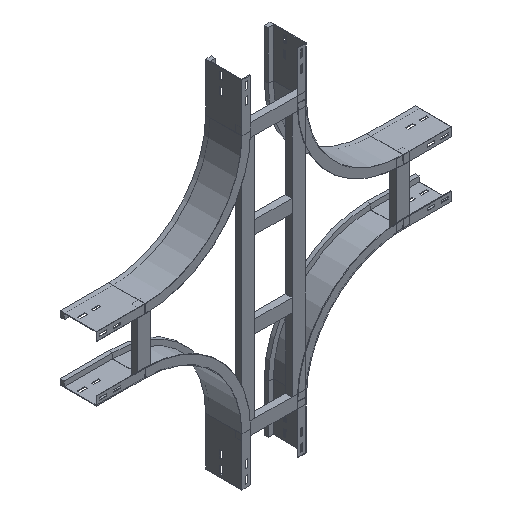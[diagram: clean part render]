
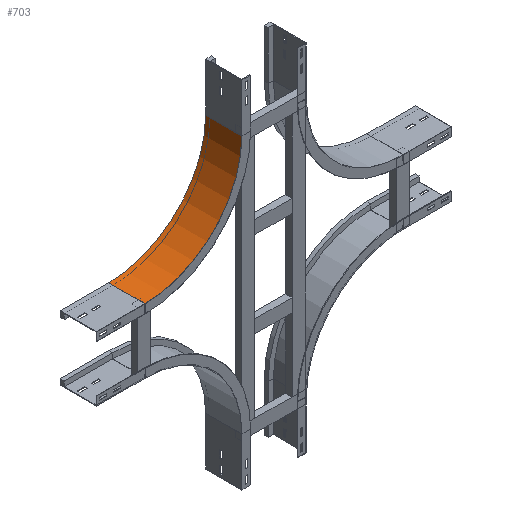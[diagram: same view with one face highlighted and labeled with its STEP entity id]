
A CAD part, isometric view. The second image highlights one B-rep face of the part: STEP entity #703.
In plain terms, the highlighted cylindrical face has radius 300 mm (diameter 600 mm), a partial arc.
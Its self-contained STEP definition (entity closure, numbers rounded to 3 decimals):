
#19 = CARTESIAN_POINT ( 'NONE',  ( 0., 0., -150. ) ) ;
#80 = EDGE_CURVE ( 'NONE', #1278, #746, #1650, .T. ) ;
#120 = VECTOR ( 'NONE', #780, 1000. ) ;
#202 = FACE_OUTER_BOUND ( 'NONE', #407, .T. ) ;
#407 = EDGE_LOOP ( 'NONE', ( #2204, #1844, #1412, #1901 ) ) ;
#495 = CARTESIAN_POINT ( 'NONE',  ( 0., 112.5, -150. ) ) ;
#642 = VERTEX_POINT ( 'NONE', #495 ) ;
#684 = DIRECTION ( 'NONE',  ( 0., -1., 0. ) ) ;
#688 = VECTOR ( 'NONE', #1623, 1000. ) ;
#703 = ADVANCED_FACE ( 'NONE', ( #202 ), #997, .F. ) ;
#729 = CIRCLE ( 'NONE', #1293, 300. ) ;
#746 = VERTEX_POINT ( 'NONE', #1134 ) ;
#752 = LINE ( 'NONE', #19, #120 ) ;
#780 = DIRECTION ( 'NONE',  ( 0., 1., 0. ) ) ;
#817 = CARTESIAN_POINT ( 'NONE',  ( 300., 0., -150. ) ) ;
#886 = CARTESIAN_POINT ( 'NONE',  ( 300., 112.5, -150. ) ) ;
#899 = EDGE_CURVE ( 'NONE', #642, #1879, #729, .T. ) ;
#940 = CARTESIAN_POINT ( 'NONE',  ( 300., 112.5, -450. ) ) ;
#997 = CYLINDRICAL_SURFACE ( 'NONE', #2420, 300. ) ;
#1042 = DIRECTION ( 'NONE',  ( 0., -1., 0. ) ) ;
#1134 = CARTESIAN_POINT ( 'NONE',  ( 300., 0., -450. ) ) ;
#1260 = CARTESIAN_POINT ( 'NONE',  ( 0., 0., -150. ) ) ;
#1278 = VERTEX_POINT ( 'NONE', #1260 ) ;
#1293 = AXIS2_PLACEMENT_3D ( 'NONE', #886, #684, #1462 ) ;
#1375 = EDGE_CURVE ( 'NONE', #1278, #642, #752, .T. ) ;
#1412 = ORIENTED_EDGE ( 'NONE', *, *, #80, .T. ) ;
#1462 = DIRECTION ( 'NONE',  ( -1., 0., 0. ) ) ;
#1524 = EDGE_CURVE ( 'NONE', #746, #1879, #2374, .T. ) ;
#1568 = CARTESIAN_POINT ( 'NONE',  ( 300., 0., -150. ) ) ;
#1623 = DIRECTION ( 'NONE',  ( 0., 1., 0. ) ) ;
#1650 = CIRCLE ( 'NONE', #2055, 300. ) ;
#1844 = ORIENTED_EDGE ( 'NONE', *, *, #1375, .F. ) ;
#1879 = VERTEX_POINT ( 'NONE', #940 ) ;
#1901 = ORIENTED_EDGE ( 'NONE', *, *, #1524, .T. ) ;
#1903 = DIRECTION ( 'NONE',  ( 0., 0., -1. ) ) ;
#2055 = AXIS2_PLACEMENT_3D ( 'NONE', #817, #1042, #2371 ) ;
#2204 = ORIENTED_EDGE ( 'NONE', *, *, #899, .F. ) ;
#2211 = CARTESIAN_POINT ( 'NONE',  ( 300., 0., -450. ) ) ;
#2336 = DIRECTION ( 'NONE',  ( 0., -1., 0. ) ) ;
#2371 = DIRECTION ( 'NONE',  ( -1., 0., 0. ) ) ;
#2374 = LINE ( 'NONE', #2211, #688 ) ;
#2420 = AXIS2_PLACEMENT_3D ( 'NONE', #1568, #2336, #1903 ) ;
